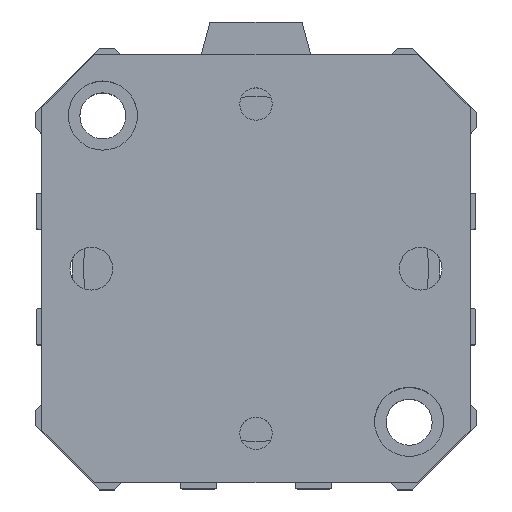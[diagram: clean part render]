
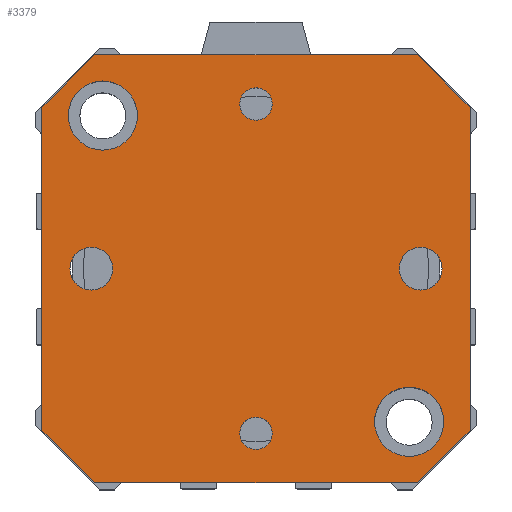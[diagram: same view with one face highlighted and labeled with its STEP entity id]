
A CAD part, top view. The second image highlights one B-rep face of the part: STEP entity #3379.
In plain terms, the highlighted planar face has unit normal (0, 0, 1).
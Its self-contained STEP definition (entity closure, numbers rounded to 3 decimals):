
#265=LINE('',#5630,#519);
#267=LINE('',#5634,#521);
#269=LINE('',#5638,#523);
#271=LINE('',#5642,#525);
#273=LINE('',#5646,#527);
#275=LINE('',#5650,#529);
#277=LINE('',#5654,#531);
#279=LINE('',#5657,#533);
#519=VECTOR('',#4681,49.);
#521=VECTOR('',#4685,11.314);
#523=VECTOR('',#4689,49.);
#525=VECTOR('',#4693,11.314);
#527=VECTOR('',#4697,49.);
#529=VECTOR('',#4701,11.314);
#531=VECTOR('',#4705,49.);
#533=VECTOR('',#4709,11.314);
#627=PLANE('',#3743);
#716=FACE_BOUND('',#1138,.T.);
#717=FACE_BOUND('',#1139,.T.);
#718=FACE_BOUND('',#1140,.T.);
#719=FACE_BOUND('',#1141,.T.);
#720=FACE_BOUND('',#1142,.T.);
#721=FACE_BOUND('',#1143,.T.);
#722=FACE_BOUND('',#1144,.T.);
#1138=EDGE_LOOP('',(#2914));
#1139=EDGE_LOOP('',(#2915));
#1140=EDGE_LOOP('',(#2916));
#1141=EDGE_LOOP('',(#2917));
#1142=EDGE_LOOP('',(#2918));
#1143=EDGE_LOOP('',(#2919));
#1144=EDGE_LOOP('',(#2920,#2921,#2922,#2923,#2924,#2925,#2926,#2927));
#1309=CIRCLE('',#3699,2.459);
#1311=CIRCLE('',#3702,2.459);
#1316=CIRCLE('',#3710,3.25);
#1320=CIRCLE('',#3717,3.25);
#1329=CIRCLE('',#3732,5.25);
#1330=CIRCLE('',#3734,5.25);
#1601=VERTEX_POINT('',#5548);
#1603=VERTEX_POINT('',#5553);
#1608=VERTEX_POINT('',#5566);
#1612=VERTEX_POINT('',#5577);
#1631=VERTEX_POINT('',#5621);
#1632=VERTEX_POINT('',#5624);
#1633=VERTEX_POINT('',#5627);
#1634=VERTEX_POINT('',#5629);
#1635=VERTEX_POINT('',#5633);
#1636=VERTEX_POINT('',#5637);
#1637=VERTEX_POINT('',#5641);
#1638=VERTEX_POINT('',#5645);
#1639=VERTEX_POINT('',#5649);
#1640=VERTEX_POINT('',#5653);
#2025=EDGE_CURVE('',#1601,#1601,#1309,.T.);
#2027=EDGE_CURVE('',#1603,#1603,#1311,.T.);
#2032=EDGE_CURVE('',#1608,#1608,#1316,.T.);
#2036=EDGE_CURVE('',#1612,#1612,#1320,.T.);
#2055=EDGE_CURVE('',#1631,#1631,#1329,.T.);
#2056=EDGE_CURVE('',#1632,#1632,#1330,.T.);
#2058=EDGE_CURVE('',#1634,#1633,#265,.T.);
#2060=EDGE_CURVE('',#1635,#1634,#267,.T.);
#2062=EDGE_CURVE('',#1636,#1635,#269,.T.);
#2064=EDGE_CURVE('',#1637,#1636,#271,.T.);
#2066=EDGE_CURVE('',#1638,#1637,#273,.T.);
#2068=EDGE_CURVE('',#1639,#1638,#275,.T.);
#2070=EDGE_CURVE('',#1640,#1639,#277,.T.);
#2072=EDGE_CURVE('',#1633,#1640,#279,.T.);
#2914=ORIENTED_EDGE('',*,*,#2025,.T.);
#2915=ORIENTED_EDGE('',*,*,#2027,.T.);
#2916=ORIENTED_EDGE('',*,*,#2032,.T.);
#2917=ORIENTED_EDGE('',*,*,#2036,.T.);
#2918=ORIENTED_EDGE('',*,*,#2055,.T.);
#2919=ORIENTED_EDGE('',*,*,#2056,.T.);
#2920=ORIENTED_EDGE('',*,*,#2072,.T.);
#2921=ORIENTED_EDGE('',*,*,#2070,.T.);
#2922=ORIENTED_EDGE('',*,*,#2068,.T.);
#2923=ORIENTED_EDGE('',*,*,#2066,.T.);
#2924=ORIENTED_EDGE('',*,*,#2064,.T.);
#2925=ORIENTED_EDGE('',*,*,#2062,.T.);
#2926=ORIENTED_EDGE('',*,*,#2060,.T.);
#2927=ORIENTED_EDGE('',*,*,#2058,.T.);
#3379=ADVANCED_FACE('',(#716,#717,#718,#719,#720,#721,#722),#627,.T.);
#3699=AXIS2_PLACEMENT_3D('',#5549,#4596,#4597);
#3702=AXIS2_PLACEMENT_3D('',#5554,#4602,#4603);
#3710=AXIS2_PLACEMENT_3D('',#5567,#4618,#4619);
#3717=AXIS2_PLACEMENT_3D('',#5578,#4632,#4633);
#3732=AXIS2_PLACEMENT_3D('',#5622,#4672,#4673);
#3734=AXIS2_PLACEMENT_3D('',#5625,#4676,#4677);
#3743=AXIS2_PLACEMENT_3D('',#5658,#4710,#4711);
#4596=DIRECTION('center_axis',(0.,0.,-1.));
#4597=DIRECTION('ref_axis',(1.,0.,0.));
#4602=DIRECTION('center_axis',(0.,0.,-1.));
#4603=DIRECTION('ref_axis',(1.,0.,0.));
#4618=DIRECTION('center_axis',(0.,0.,-1.));
#4619=DIRECTION('ref_axis',(1.,0.,0.));
#4632=DIRECTION('center_axis',(0.,0.,-1.));
#4633=DIRECTION('ref_axis',(1.,0.,0.));
#4672=DIRECTION('center_axis',(0.,0.,-1.));
#4673=DIRECTION('ref_axis',(-1.,0.,0.));
#4676=DIRECTION('center_axis',(0.,0.,-1.));
#4677=DIRECTION('ref_axis',(-1.,0.,0.));
#4681=DIRECTION('',(0.,1.,0.));
#4685=DIRECTION('',(0.707,0.707,0.));
#4689=DIRECTION('',(1.,0.,0.));
#4693=DIRECTION('',(0.707,-0.707,0.));
#4697=DIRECTION('',(0.,-1.,0.));
#4701=DIRECTION('',(-0.707,-0.707,0.));
#4705=DIRECTION('',(-1.,0.,0.));
#4709=DIRECTION('',(-0.707,0.707,0.));
#4710=DIRECTION('center_axis',(0.,0.,1.));
#4711=DIRECTION('ref_axis',(1.,0.,0.));
#5548=CARTESIAN_POINT('',(-27.459,0.,37.));
#5549=CARTESIAN_POINT('Origin',(-25.,0.,37.));
#5553=CARTESIAN_POINT('',(22.542,0.,37.));
#5554=CARTESIAN_POINT('Origin',(25.,0.,37.));
#5566=CARTESIAN_POINT('',(-3.25,25.,37.));
#5567=CARTESIAN_POINT('Origin',(0.,25.,37.));
#5577=CARTESIAN_POINT('',(-3.25,-25.,37.));
#5578=CARTESIAN_POINT('Origin',(0.,-25.,37.));
#5621=CARTESIAN_POINT('',(-18.,-23.25,37.));
#5622=CARTESIAN_POINT('Origin',(-23.25,-23.25,37.));
#5624=CARTESIAN_POINT('',(28.5,23.25,37.));
#5625=CARTESIAN_POINT('Origin',(23.25,23.25,37.));
#5627=CARTESIAN_POINT('',(32.5,24.5,37.));
#5629=CARTESIAN_POINT('',(32.5,-24.5,37.));
#5630=CARTESIAN_POINT('',(32.5,24.5,37.));
#5633=CARTESIAN_POINT('',(24.5,-32.5,37.));
#5634=CARTESIAN_POINT('',(32.5,-24.5,37.));
#5637=CARTESIAN_POINT('',(-24.5,-32.5,37.));
#5638=CARTESIAN_POINT('',(24.5,-32.5,37.));
#5641=CARTESIAN_POINT('',(-32.5,-24.5,37.));
#5642=CARTESIAN_POINT('',(-24.5,-32.5,37.));
#5645=CARTESIAN_POINT('',(-32.5,24.5,37.));
#5646=CARTESIAN_POINT('',(-32.5,-24.5,37.));
#5649=CARTESIAN_POINT('',(-24.5,32.5,37.));
#5650=CARTESIAN_POINT('',(-32.5,24.5,37.));
#5653=CARTESIAN_POINT('',(24.5,32.5,37.));
#5654=CARTESIAN_POINT('',(-24.5,32.5,37.));
#5657=CARTESIAN_POINT('',(24.5,32.5,37.));
#5658=CARTESIAN_POINT('Origin',(0.,0.,37.));
